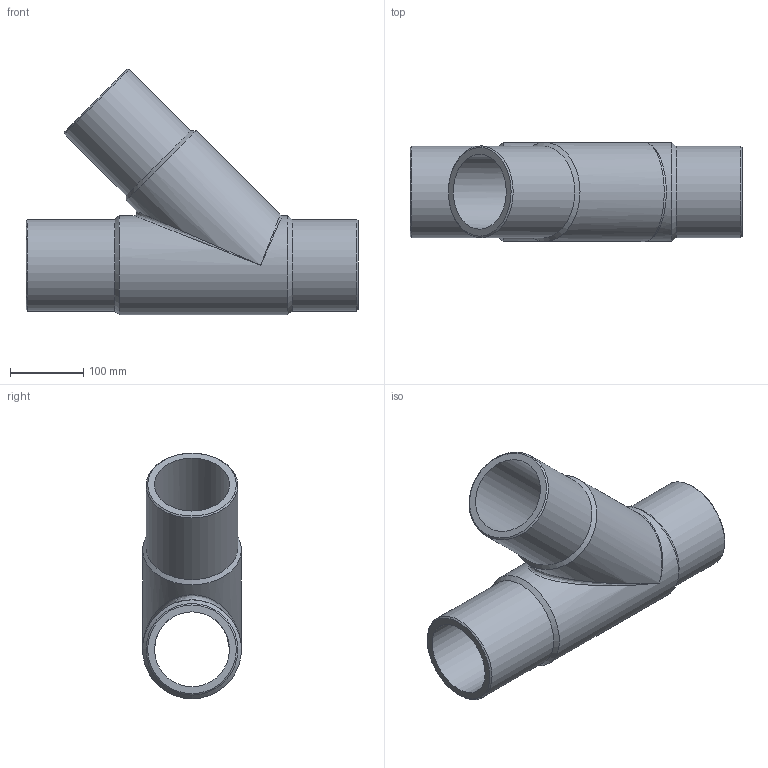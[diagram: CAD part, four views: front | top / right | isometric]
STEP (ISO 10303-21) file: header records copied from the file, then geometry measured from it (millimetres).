
FILE_DESCRIPTION(/* description */ ('Unknown'),/* implementation_level */ '2;1');
FILE_NAME(/* name */ 'T4P125C',/* time_stamp */ '2022-02-23T10:57:02+01:00',/* author */ ('Unknown'),/* organization */ ('Unknown'),/* preprocessor_version */ 'ST-DEVELOPER v18.1',/* originating_system */ 'Solid Edge',/* authorisation */ 'Unknown');
FILE_SCHEMA (('AUTOMOTIVE_DESIGN {1 0 10303 214 3 1 1}'));
Length unit declared in the file: millimetre
Products named in the file (1): T4P125C
Bounding box: 453 x 135 x 335.11 mm (x, y, z)
Volume: 3358090 mm3; surface area: 495112.5 mm2
Topology: 1 solids, 1 shells, 18 faces, 47 edges, 26 vertices
Faces by surface type: cylinder 7, cone 6, plane 3, bspline 2
Full cylindrical faces by diameter (mm): 102.2 x2, 125 x3, 135 x2
Entity records: 516 total; most frequent: CARTESIAN_POINT 159, DIRECTION 76, ORIENTED_EDGE 42, AXIS2_PLACEMENT_3D 38, EDGE_LOOP 36, FACE_BOUND 36, EDGE_CURVE 21, VERTEX_POINT 19
